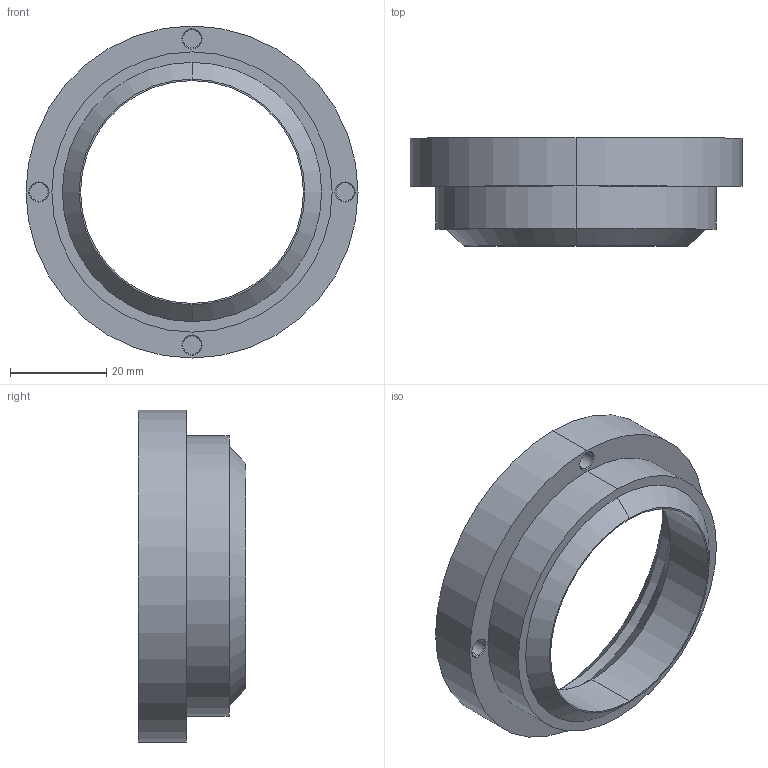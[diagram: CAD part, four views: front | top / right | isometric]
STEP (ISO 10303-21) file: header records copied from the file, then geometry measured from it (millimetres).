
FILE_DESCRIPTION (( 'STEP AP203' ), '1' );
FILE_NAME ('5846 Funnel V4 3Da.STEP', '2025-05-18T14:41:34', ( '' ), ( '' ), 'SwSTEP 2.0', 'SolidWorks 2023', '' );
FILE_SCHEMA (( 'CONFIG_CONTROL_DESIGN' ));
Length unit declared in the file: millimetre
Products named in the file (1): 5846 Funnel V4 3Da
Bounding box: 69 x 22.41 x 69 mm (x, y, z)
Volume: 20881.5 mm3; surface area: 10948.4 mm2
Topology: 1 solids, 1 shells, 38 faces, 80 edges, 50 vertices
Faces by surface type: cylinder 16, cone 14, plane 8
Entity records: 1115 total; most frequent: DIRECTION 208, CARTESIAN_POINT 169, ORIENTED_EDGE 160, AXIS2_PLACEMENT_3D 89, EDGE_CURVE 80, VERTEX_POINT 50, CIRCLE 50, EDGE_LOOP 46
